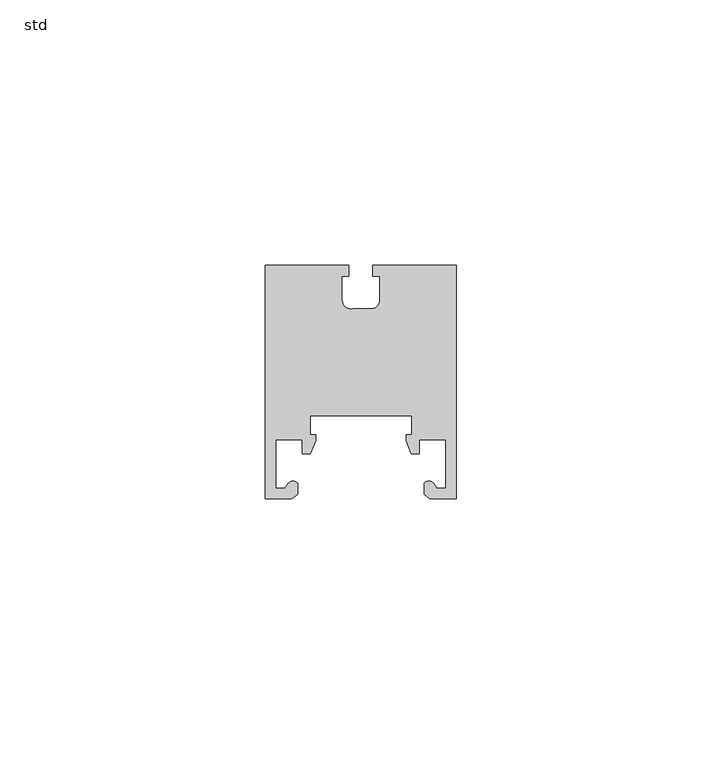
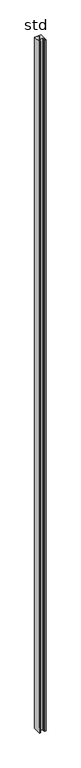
"""IFC4 building model written with IfcOpenShell, lengths in millimetres: column geometry, NLRS_21_COL_drager ST.0460_Storax : std."""

import ifcopenshell
import ifcopenshell.guid

model = None  # the IFC model being written
_history = None  # IfcOwnerHistory: only IFC2X3 demands one
_inside = {}  # id of a spatial element -> (the spatial element, [elements in it])
_under = {}  # id of a project, library or spatial element -> (it, [spatial elements below it])
_declared = {}  # id of a project -> (the project, [libraries it declares])
_typed = {}  # id of a type object -> (the type object, [elements of that type])
_made_of = {}  # id of a material, layer set ... -> (it, [elements and type objects made of it])


def new_model(schema):
    """Start an empty IFC model of exactly this schema.

    Asked for "IFC4X3", IfcOpenShell would pick the latest addendum, in which some entities
    have other attributes; the version numbers below select the first issue.
    IFC2X3 requires an IfcOwnerHistory on every rooted entity: one is made here for all.
    """
    global model, _history
    if schema == "IFC4X3":
        model = ifcopenshell.file(schema_version=(4, 3, 0, 0))
    else:
        model = ifcopenshell.file(schema=schema)
    _inside.clear()
    _under.clear()
    _declared.clear()
    _typed.clear()
    _made_of.clear()
    _history = None
    if model.schema == "IFC2X3":
        org = make("IfcOrganization", Name="unknown")
        user = make(
            "IfcPersonAndOrganization",
            ThePerson=make("IfcPerson", FamilyName="unknown"),
            TheOrganization=org,
        )
        app = make(
            "IfcApplication",
            ApplicationDeveloper=org,
            Version="unknown",
            ApplicationFullName="unknown",
            ApplicationIdentifier="unknown",
        )
        _history = make(
            "IfcOwnerHistory",
            OwningUser=user,
            OwningApplication=app,
            ChangeAction="ADDED",
            CreationDate=0,
        )
    return model


def make(cls, **values):
    """One entity of the class cls with the attributes given. An attribute that is None is left unset."""
    return model.create_entity(
        cls, **{name: value for name, value in values.items() if value is not None}
    )


def rooted(cls, **values):
    """An entity with a GlobalId (a new one), such as an element, a storey or a relation."""
    return make(cls, GlobalId=ifcopenshell.guid.new(), OwnerHistory=_history, **values)


def si_unit(unit_type, name, prefix=None):
    """IfcSIUnit, for example si_unit("LENGTHUNIT", "METRE", prefix="MILLI")."""
    return make("IfcSIUnit", UnitType=unit_type, Prefix=prefix, Name=name)


def assignment(units):
    """IfcUnitAssignment: the units of a project."""
    return None if units is None else make("IfcUnitAssignment", Units=units)


def point(xyz):
    """IfcCartesianPoint."""
    return None if xyz is None else make("IfcCartesianPoint", Coordinates=xyz)


def direction(xyz):
    """IfcDirection."""
    return None if xyz is None else make("IfcDirection", DirectionRatios=xyz)


def frame(location, z_axis=None, x_axis=None):
    """IfcAxis2Placement3D, a coordinate frame: its origin and axes. An axis left out is left unset."""
    return make(
        "IfcAxis2Placement3D",
        Location=point(location),
        Axis=direction(z_axis),
        RefDirection=direction(x_axis),
    )


def frame_2d(location, x_axis=None):
    """IfcAxis2Placement2D, a coordinate frame in the plane: its origin and x axis."""
    return make(
        "IfcAxis2Placement2D", Location=point(location), RefDirection=direction(x_axis)
    )


def origin():
    """The frame at (0, 0, 0) with its axes left unset."""
    return frame((0.0, 0.0, 0.0))


def origin_with_axes():
    """The frame at (0, 0, 0) with the z axis (0, 0, 1) and the x axis (1, 0, 0) written out."""
    return frame((0.0, 0.0, 0.0), z_axis=(0.0, 0.0, 1.0), x_axis=(1.0, 0.0, 0.0))


def place(relative_to, where):
    """IfcLocalPlacement: puts the frame where relative to a parent placement (None: the world)."""
    return make(
        "IfcLocalPlacement", PlacementRelTo=relative_to, RelativePlacement=where
    )


def context(
    kind, dimensions, precision=None, world=None, true_north=None, identifier=None
):
    """IfcGeometricRepresentationContext, for example the 3D "Model" context."""
    return make(
        "IfcGeometricRepresentationContext",
        ContextIdentifier=identifier,
        ContextType=kind,
        CoordinateSpaceDimension=dimensions,
        Precision=precision,
        WorldCoordinateSystem=world,
        TrueNorth=true_north,
    )


def project(units=None, contexts=None):
    """IfcProject with its units and contexts."""
    return rooted(
        "IfcProject",
        Name="project",
        RepresentationContexts=contexts,
        UnitsInContext=assignment(units),
    )


def spatial(cls, under=None, at=None, **own):
    """A site, building, storey or space (cls), placed at a placement, below another one or the project."""
    s = rooted(cls, ObjectPlacement=at, **own)
    if under is not None:
        _under.setdefault(under.id(), (under, []))[1].append(s)
    return s


def polyline(points):
    """IfcPolyline through the points."""
    return make("IfcPolyline", Points=[point(p) for p in points])


def circle_curve(where, radius):
    """IfcCircle in the frame where."""
    return make("IfcCircle", Position=where, Radius=radius)


def trimmed(basis, trim1, trim2, sense, master):
    """IfcTrimmedCurve: the piece of a basis curve between two trims."""
    return make(
        "IfcTrimmedCurve",
        BasisCurve=basis,
        Trim1=trim1,
        Trim2=trim2,
        SenseAgreement=sense,
        MasterRepresentation=master,
    )


def segment(curve, same_sense, transition):
    """IfcCompositeCurveSegment."""
    return make(
        "IfcCompositeCurveSegment",
        Transition=transition,
        SameSense=same_sense,
        ParentCurve=curve,
    )


def composite_curve(segments, self_intersect=None):
    """IfcCompositeCurve: segments joined end to end."""
    return make("IfcCompositeCurve", Segments=segments, SelfIntersect=self_intersect)


def outline(outer, holes=None, kind="AREA"):
    """IfcArbitraryClosedProfileDef: a profile drawn as a closed curve; with holes, ...WithVoids."""
    if holes is None:
        return make("IfcArbitraryClosedProfileDef", ProfileType=kind, OuterCurve=outer)
    return make(
        "IfcArbitraryProfileDefWithVoids",
        ProfileType=kind,
        OuterCurve=outer,
        InnerCurves=holes,
    )


def extrude(swept, where, along, depth):
    """IfcExtrudedAreaSolid: the profile swept, set in the frame where, extruded along a direction by depth."""
    return make(
        "IfcExtrudedAreaSolid",
        SweptArea=swept,
        Position=where,
        ExtrudedDirection=direction(along),
        Depth=depth,
    )


def shape(context_of_items, identifier, shape_type, items):
    """IfcShapeRepresentation: the items that make up one representation, for example the "Body"."""
    return make(
        "IfcShapeRepresentation",
        ContextOfItems=context_of_items,
        RepresentationIdentifier=identifier,
        RepresentationType=shape_type,
        Items=items,
    )


def source(mapping_origin, context_of_items, identifier, shape_type, items):
    """IfcRepresentationMap: a shape defined once, which mapped items show again and again."""
    return make(
        "IfcRepresentationMap",
        MappingOrigin=mapping_origin,
        MappedRepresentation=shape(context_of_items, identifier, shape_type, items),
    )


def transform(
    local_origin,
    x_axis=None,
    y_axis=None,
    z_axis=None,
    scale=None,
    scale2=None,
    scale3=None,
    uniform=True,
):
    """IfcCartesianTransformationOperator3D, or its non-uniform kind. x_axis, y_axis, z_axis: its Axis1, 2, 3."""
    if uniform:
        return make(
            "IfcCartesianTransformationOperator3D",
            Axis1=direction(x_axis),
            Axis2=direction(y_axis),
            LocalOrigin=point(local_origin),
            Scale=scale,
            Axis3=direction(z_axis),
        )
    return make(
        "IfcCartesianTransformationOperator3DnonUniform",
        Axis1=direction(x_axis),
        Axis2=direction(y_axis),
        LocalOrigin=point(local_origin),
        Scale=scale,
        Axis3=direction(z_axis),
        Scale2=scale2,
        Scale3=scale3,
    )


def mapped(mapping_source, mapping_target):
    """IfcMappedItem: shows the shape of a source again, moved by a transform."""
    return make(
        "IfcMappedItem", MappingSource=mapping_source, MappingTarget=mapping_target
    )


def made_of(thing, what):
    """Note that an element or type object is made of a material, layer set ...; save() writes the relation."""
    if what is not None:
        _made_of.setdefault(what.id(), (what, []))[1].append(thing)
    return thing


def element(
    cls,
    number,
    at=None,
    inside=None,
    cuts=None,
    type_object=None,
    material=None,
    context=None,
    identifier="Body",
    shape_type=None,
    held_by="IfcProductDefinitionShape",
    body=None,
    shapes=None,
    **own,
):
    """One element of the class cls, such as IfcWall. Its Tag is "e" and its number.

    at: its placement. inside: the storey or other place that contains it. cuts: it is an
    opening in that element (IfcRelVoidsElement). A single representation is given by context,
    identifier, shape_type and body (its items); several are given by shapes. held_by: the class
    of the entity that holds the representations. save() writes the other relations.
    """
    e = rooted(cls, Tag="e%d" % number, ObjectPlacement=at, **own)
    if body is not None:
        shapes = [shape(context, identifier, shape_type, body)]
    if shapes is not None:
        e.Representation = make(held_by, Representations=shapes)
    if inside is not None:
        _inside.setdefault(inside.id(), (inside, []))[1].append(e)
    if cuts is not None:
        rooted(
            "IfcRelVoidsElement", RelatingBuildingElement=cuts, RelatedOpeningElement=e
        )
    if type_object is not None:
        _typed.setdefault(type_object.id(), (type_object, []))[1].append(e)
    return made_of(e, material)


def aggregate(whole, parts):
    """IfcRelAggregates: a whole, such as a stair, and the parts it consists of."""
    return rooted("IfcRelAggregates", RelatingObject=whole, RelatedObjects=parts)


def save(model, path):
    """Write the relations noted so far, then the file.

    IfcRelAggregates (storeys below a building ...), IfcRelContainedInSpatialStructure (elements
    in a storey), IfcRelDefinesByType, IfcRelAssociatesMaterial and IfcRelDeclares: one each for
    every whole, place, type object, material and project.
    """
    for whole, parts in _under.values():
        aggregate(whole, parts)
    for where, things in _inside.values():
        rooted(
            "IfcRelContainedInSpatialStructure",
            RelatedElements=things,
            RelatingStructure=where,
        )
    for kind, things in _typed.values():
        rooted("IfcRelDefinesByType", RelatedObjects=things, RelatingType=kind)
    for what, things in _made_of.values():
        rooted("IfcRelAssociatesMaterial", RelatedObjects=things, RelatingMaterial=what)
    for by, libraries in _declared.values():
        rooted("IfcRelDeclares", RelatingContext=by, RelatedDefinitions=libraries)
    model.write(path)


def std_1eaa2876(model_context):
    return source(origin(), model_context, "Body", "SweptSolid", [
        extrude(outline(composite_curve([segment(polyline([(-18.0, -45.0), (-18.0, -1.0), (-2.2489445, -1.0), (-2.2489445, -3.0843142), (-3.59041, -3.0843142), (-3.59041, -7.4667227)]), True, "CONTINUOUS"), segment(trimmed(circle_curve(frame_2d((-1.8285608, -7.4667227)), 1.7618492), [point((-3.59041, -7.4667227))], [point((-1.559877, -9.2079641))], True, "CARTESIAN"), True, "CONTINUOUS"), segment(polyline([(-1.559877, -9.2079641), (2.0972447, -9.2079641)]), True, "CONTINUOUS"), segment(trimmed(circle_curve(frame_2d((1.8285608, -7.4667227)), 1.7618492), [point((2.0972447, -9.2079641))], [point((3.59041, -7.4667227))], True, "CARTESIAN"), True, "CONTINUOUS"), segment(polyline([(3.59041, -7.4667227), (3.59041, -3.0843142), (2.2489445, -3.0843142), (2.2489445, -1.0), (18.0, -1.0), (18.0, -45.0), (13.0, -45.0), (11.8999059, -44.0769114), (11.8999059, -42.061549)]), True, "CONTINUOUS"), segment(trimmed(circle_curve(frame_2d((12.7950072, -42.8498072)), 1.1927101), [point((11.8999059, -42.061549))], [point((13.6901084, -42.061549))], False, "CARTESIAN"), True, "CONTINUOUS"), segment(polyline([(13.6901084, -42.061549), (14.3252443, -42.9686169), (16.0, -42.9686169), (16.0, -33.8153021), (11.0249909, -33.8153021), (11.0249909, -36.4593247), (9.5067296, -36.4593247), (8.4980468, -34.083017), (8.4980468, -32.9566029), (9.5375453, -32.9566029), (9.5375453, -29.3621189), (-9.5375453, -29.3621189), (-9.5375453, -32.9566029), (-8.4980468, -32.9566029), (-8.4980468, -34.083017), (-9.5067296, -36.4593247), (-11.0249909, -36.4593247), (-11.0249909, -33.8153021), (-16.0, -33.8153021), (-16.0, -42.9686169), (-14.3252443, -42.9686169), (-13.6901084, -42.061549)]), True, "CONTINUOUS"), segment(trimmed(circle_curve(frame_2d((-12.7950072, -42.8498072)), 1.1927101), [point((-13.6901084, -42.061549))], [point((-11.8999059, -42.061549))], False, "CARTESIAN"), True, "CONTINUOUS"), segment(polyline([(-11.8999059, -42.061549), (-11.8999059, -44.0769114), (-13.0, -45.0), (-18.0, -45.0)]), True, "CONTINUOUS")], self_intersect=False)), origin_with_axes(), (0.0, 0.0, 1.0), 4000.0),
    ])


if __name__ == "__main__":
    model = new_model("IFC4")
    model_context = context("Model", 3, world=origin())
    ifc_project = project(units=[si_unit("LENGTHUNIT", "METRE", prefix="MILLI")], contexts=[model_context])
    site = spatial("IfcSite", under=ifc_project)
    building = spatial("IfcBuilding", under=site)
    placement = place(None, origin())
    std_shape = std_1eaa2876(model_context)
    element("IfcColumn", 1, ObjectType="NLRS_21_COL_drager ST.0460_Storax : std", at=placement, inside=building, context=model_context, shape_type="MappedRepresentation", body=[
        mapped(std_shape, transform((0.0, 0.0, 0.0), x_axis=(1.0, 0.0, 0.0), y_axis=(0.0, 1.0, 0.0), z_axis=(0.0, 0.0, 1.0))),
    ])
    save(model, "model.ifc")
